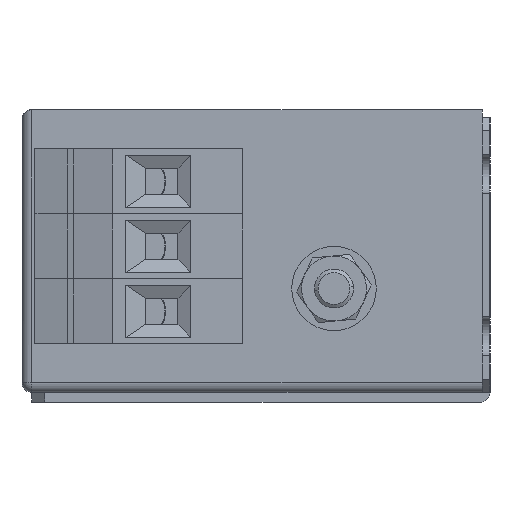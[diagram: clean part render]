
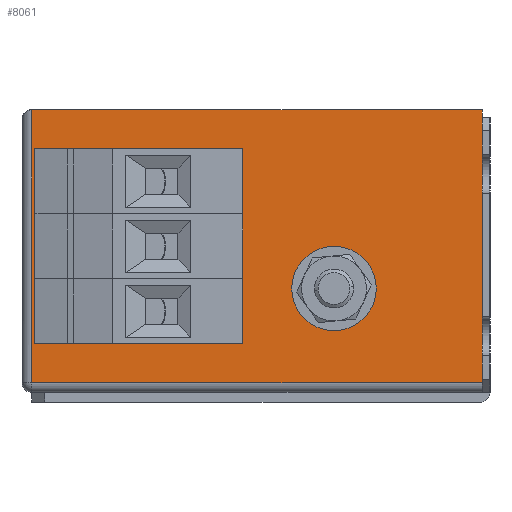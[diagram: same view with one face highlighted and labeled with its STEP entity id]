
A CAD part, left-side view. The second image highlights one B-rep face of the part: STEP entity #8061.
In plain terms, the highlighted planar face has unit normal (-1, 0, 0).
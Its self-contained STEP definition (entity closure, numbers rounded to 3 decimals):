
#5228 = CARTESIAN_POINT ( 'NONE',  ( 15., 24., -29.3 ) ) ;
#5229 = CARTESIAN_POINT ( 'NONE',  ( 15., 24., -23.3 ) ) ;
#5230 = DIRECTION ( 'NONE',  ( 0., 0., -1. ) ) ;
#5231 = DIRECTION ( 'NONE',  ( 1., 0., 0. ) ) ;
#5232 = CARTESIAN_POINT ( 'NONE',  ( 15., 24., -26.3 ) ) ;
#5233 = AXIS2_PLACEMENT_3D ( 'NONE', #5232, #5231, #5230 ) ;
#5238 = CIRCLE ( 'NONE', #5233, 3. ) ;
#5247 = CARTESIAN_POINT ( 'NONE',  ( 15., 54., -13.9 ) ) ;
#5248 = CARTESIAN_POINT ( 'NONE',  ( 15., 54., -5.7 ) ) ;
#5249 = DIRECTION ( 'NONE',  ( 0., 0., -1. ) ) ;
#5250 = DIRECTION ( 'NONE',  ( 1., 0., 0. ) ) ;
#5251 = CARTESIAN_POINT ( 'NONE',  ( 15., 54., -9.8 ) ) ;
#5252 = AXIS2_PLACEMENT_3D ( 'NONE', #5251, #5250, #5249 ) ;
#5253 = CIRCLE ( 'NONE', #5252, 4.1 ) ;
#5271 = CARTESIAN_POINT ( 'NONE',  ( 15., 70.5, -40.8 ) ) ;
#5304 = CARTESIAN_POINT ( 'NONE',  ( 15., 54., -23.9 ) ) ;
#5305 = CARTESIAN_POINT ( 'NONE',  ( 15., 54., -15.7 ) ) ;
#5306 = DIRECTION ( 'NONE',  ( 0., 0., -1. ) ) ;
#5307 = DIRECTION ( 'NONE',  ( 1., 0., 0. ) ) ;
#5308 = AXIS2_PLACEMENT_3D ( 'NONE', #5314, #5307, #5306 ) ;
#5309 = CIRCLE ( 'NONE', #5308, 4.1 ) ;
#5314 = CARTESIAN_POINT ( 'NONE',  ( 15., 54., -19.8 ) ) ;
#5335 = CARTESIAN_POINT ( 'NONE',  ( 15., 54., -33.9 ) ) ;
#5336 = CARTESIAN_POINT ( 'NONE',  ( 15., 54., -25.7 ) ) ;
#5337 = DIRECTION ( 'NONE',  ( 0., 0., -1. ) ) ;
#5338 = DIRECTION ( 'NONE',  ( 1., 0., 0. ) ) ;
#5339 = AXIS2_PLACEMENT_3D ( 'NONE', #5344, #5338, #5337 ) ;
#5340 = CIRCLE ( 'NONE', #5339, 4.1 ) ;
#5344 = CARTESIAN_POINT ( 'NONE',  ( 15., 54., -29.8 ) ) ;
#5353 = CARTESIAN_POINT ( 'NONE',  ( 15., 1.2, 1.2 ) ) ;
#5354 = CARTESIAN_POINT ( 'NONE',  ( 15., 1.2, 0. ) ) ;
#5355 = DIRECTION ( 'NONE',  ( 0., 0., 1. ) ) ;
#5356 = VECTOR ( 'NONE', #5355, 1000. ) ;
#5357 = CARTESIAN_POINT ( 'NONE',  ( 15., 1.2, 1.2 ) ) ;
#5358 = LINE ( 'NONE', #5357, #5356 ) ;
#5380 = DIRECTION ( 'NONE',  ( 0., -1., 0. ) ) ;
#5381 = VECTOR ( 'NONE', #5380, 1000. ) ;
#5382 = CARTESIAN_POINT ( 'NONE',  ( 15., 72., -40.8 ) ) ;
#5383 = LINE ( 'NONE', #5382, #5381 ) ;
#5384 = CARTESIAN_POINT ( 'NONE',  ( 15., 1.2, -40.8 ) ) ;
#5427 = DIRECTION ( 'NONE',  ( 0., 0., -1. ) ) ;
#5428 = DIRECTION ( 'NONE',  ( 1., 0., 0. ) ) ;
#5429 = CARTESIAN_POINT ( 'NONE',  ( 15., 72., 1.2 ) ) ;
#5430 = AXIS2_PLACEMENT_3D ( 'NONE', #5429, #5428, #5427 ) ;
#5431 = PLANE ( 'NONE',  #5430 ) ;
#5432 = FACE_OUTER_BOUND ( 'NONE', #8051, .T. ) ;
#5433 = FACE_BOUND ( 'NONE', #8074, .T. ) ;
#5434 = FACE_BOUND ( 'NONE', #8070, .T. ) ;
#5435 = FACE_BOUND ( 'NONE', #8066, .T. ) ;
#5436 = FACE_BOUND ( 'NONE', #8062, .T. ) ;
#5437 = DIRECTION ( 'NONE',  ( 0., 0., 1. ) ) ;
#5438 = VECTOR ( 'NONE', #5437, 1000. ) ;
#5439 = CARTESIAN_POINT ( 'NONE',  ( 15., 1.2, 1.2 ) ) ;
#5440 = LINE ( 'NONE', #5439, #5438 ) ;
#5441 = DIRECTION ( 'NONE',  ( 0., 0., -1. ) ) ;
#5442 = VECTOR ( 'NONE', #5441, 1000. ) ;
#5443 = CARTESIAN_POINT ( 'NONE',  ( 15., 70.5, 1.2 ) ) ;
#5444 = LINE ( 'NONE', #5443, #5442 ) ;
#5445 = CARTESIAN_POINT ( 'NONE',  ( 15., 70.5, 1.2 ) ) ;
#5446 = DIRECTION ( 'NONE',  ( 0., -1., 0. ) ) ;
#5447 = VECTOR ( 'NONE', #5446, 1000. ) ;
#5448 = CARTESIAN_POINT ( 'NONE',  ( 15., 72., 1.2 ) ) ;
#5449 = LINE ( 'NONE', #5448, #5447 ) ;
#5450 = DIRECTION ( 'NONE',  ( 0., 0., -1. ) ) ;
#5451 = DIRECTION ( 'NONE',  ( 1., 0., 0. ) ) ;
#5452 = AXIS2_PLACEMENT_3D ( 'NONE', #5459, #5451, #5450 ) ;
#5453 = CIRCLE ( 'NONE', #5452, 4.1 ) ;
#5459 = CARTESIAN_POINT ( 'NONE',  ( 15., 54., -19.8 ) ) ;
#5476 = DIRECTION ( 'NONE',  ( 0., 0., -1. ) ) ;
#5477 = DIRECTION ( 'NONE',  ( 1., 0., 0. ) ) ;
#5478 = CARTESIAN_POINT ( 'NONE',  ( 15., 54., -29.8 ) ) ;
#5479 = AXIS2_PLACEMENT_3D ( 'NONE', #5478, #5477, #5476 ) ;
#5480 = CIRCLE ( 'NONE', #5479, 4.1 ) ;
#5481 = DIRECTION ( 'NONE',  ( 0., 0., -1. ) ) ;
#5482 = DIRECTION ( 'NONE',  ( 1., 0., 0. ) ) ;
#5483 = CARTESIAN_POINT ( 'NONE',  ( 15., 54., -9.8 ) ) ;
#5484 = AXIS2_PLACEMENT_3D ( 'NONE', #5483, #5482, #5481 ) ;
#5485 = CIRCLE ( 'NONE', #5484, 4.1 ) ;
#5486 = DIRECTION ( 'NONE',  ( 0., 0., -1. ) ) ;
#5487 = DIRECTION ( 'NONE',  ( 1., 0., 0. ) ) ;
#5488 = CARTESIAN_POINT ( 'NONE',  ( 15., 24., -26.3 ) ) ;
#5489 = AXIS2_PLACEMENT_3D ( 'NONE', #5488, #5487, #5486 ) ;
#5490 = CIRCLE ( 'NONE', #5489, 3. ) ;
#7929 = EDGE_CURVE ( 'NONE', #7930, #7931, #5253, .T. ) ;
#7930 = VERTEX_POINT ( 'NONE', #5248 ) ;
#7931 = VERTEX_POINT ( 'NONE', #5247 ) ;
#7946 = EDGE_CURVE ( 'NONE', #7947, #7948, #5238, .T. ) ;
#7947 = VERTEX_POINT ( 'NONE', #5229 ) ;
#7948 = VERTEX_POINT ( 'NONE', #5228 ) ;
#7962 = VERTEX_POINT ( 'NONE', #5271 ) ;
#7977 = EDGE_CURVE ( 'NONE', #7978, #7979, #5309, .T. ) ;
#7978 = VERTEX_POINT ( 'NONE', #5305 ) ;
#7979 = VERTEX_POINT ( 'NONE', #5304 ) ;
#7993 = EDGE_CURVE ( 'NONE', #7994, #7995, #5340, .T. ) ;
#7994 = VERTEX_POINT ( 'NONE', #5336 ) ;
#7995 = VERTEX_POINT ( 'NONE', #5335 ) ;
#8013 = EDGE_CURVE ( 'NONE', #8014, #8015, #5358, .T. ) ;
#8014 = VERTEX_POINT ( 'NONE', #5354 ) ;
#8015 = VERTEX_POINT ( 'NONE', #5353 ) ;
#8026 = VERTEX_POINT ( 'NONE', #5384 ) ;
#8028 = EDGE_CURVE ( 'NONE', #7962, #8026, #5383, .T. ) ;
#8048 = ORIENTED_EDGE ( 'NONE', *, *, #8049, .T. ) ;
#8049 = EDGE_CURVE ( 'NONE', #7979, #7978, #5453, .T. ) ;
#8050 = ORIENTED_EDGE ( 'NONE', *, *, #7977, .T. ) ;
#8051 = EDGE_LOOP ( 'NONE', ( #8052, #8055, #8057, #8058, #8060 ) ) ;
#8052 = ORIENTED_EDGE ( 'NONE', *, *, #8053, .F. ) ;
#8053 = EDGE_CURVE ( 'NONE', #8054, #8015, #5449, .T. ) ;
#8054 = VERTEX_POINT ( 'NONE', #5445 ) ;
#8055 = ORIENTED_EDGE ( 'NONE', *, *, #8056, .T. ) ;
#8056 = EDGE_CURVE ( 'NONE', #8054, #7962, #5444, .T. ) ;
#8057 = ORIENTED_EDGE ( 'NONE', *, *, #8028, .T. ) ;
#8058 = ORIENTED_EDGE ( 'NONE', *, *, #8059, .T. ) ;
#8059 = EDGE_CURVE ( 'NONE', #8026, #8014, #5440, .T. ) ;
#8060 = ORIENTED_EDGE ( 'NONE', *, *, #8013, .T. ) ;
#8061 = ADVANCED_FACE ( 'NONE', ( #5436, #5435, #5434, #5433, #5432 ), #5431, .F. ) ;
#8062 = EDGE_LOOP ( 'NONE', ( #8063, #8065 ) ) ;
#8063 = ORIENTED_EDGE ( 'NONE', *, *, #8064, .T. ) ;
#8064 = EDGE_CURVE ( 'NONE', #7948, #7947, #5490, .T. ) ;
#8065 = ORIENTED_EDGE ( 'NONE', *, *, #7946, .T. ) ;
#8066 = EDGE_LOOP ( 'NONE', ( #8067, #8069 ) ) ;
#8067 = ORIENTED_EDGE ( 'NONE', *, *, #8068, .T. ) ;
#8068 = EDGE_CURVE ( 'NONE', #7931, #7930, #5485, .T. ) ;
#8069 = ORIENTED_EDGE ( 'NONE', *, *, #7929, .T. ) ;
#8070 = EDGE_LOOP ( 'NONE', ( #8071, #8073 ) ) ;
#8071 = ORIENTED_EDGE ( 'NONE', *, *, #8072, .T. ) ;
#8072 = EDGE_CURVE ( 'NONE', #7995, #7994, #5480, .T. ) ;
#8073 = ORIENTED_EDGE ( 'NONE', *, *, #7993, .T. ) ;
#8074 = EDGE_LOOP ( 'NONE', ( #8048, #8050 ) ) ;
